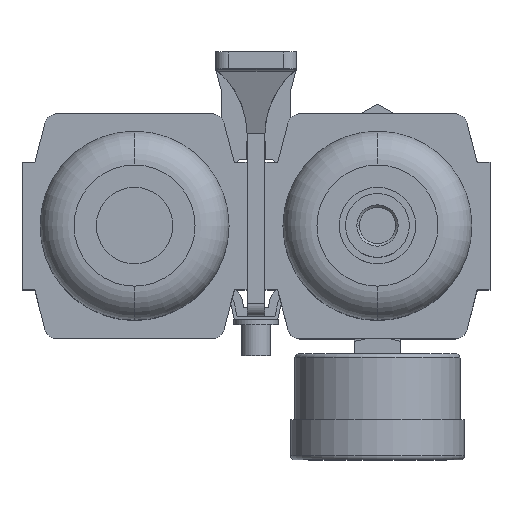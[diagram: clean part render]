
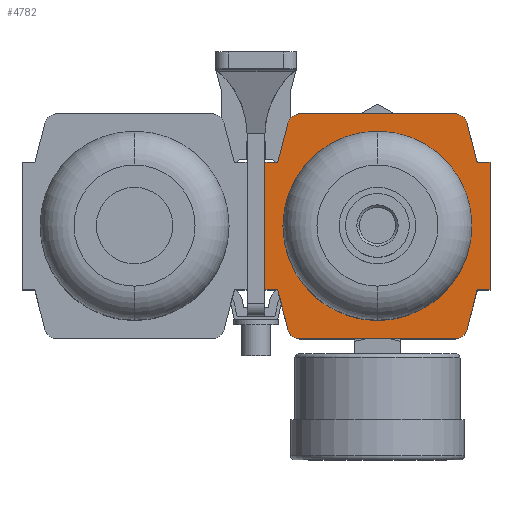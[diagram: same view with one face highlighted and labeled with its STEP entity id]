
A CAD part, top view. The second image highlights one B-rep face of the part: STEP entity #4782.
In plain terms, the highlighted planar face has unit normal (0, 0, 1).
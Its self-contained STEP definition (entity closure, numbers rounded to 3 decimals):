
#45 = ORIENTED_EDGE ( 'NONE', *, *, #16652, .F. ) ;
#190 = CARTESIAN_POINT ( 'NONE',  ( 18.182, -23.5, 0. ) ) ;
#239 = DIRECTION ( 'NONE',  ( 0., 0., -1. ) ) ;
#333 = CARTESIAN_POINT ( 'NONE',  ( 18.182, 23.5, 0. ) ) ;
#875 = EDGE_CURVE ( 'NONE', #8606, #6805, #8859, .T. ) ;
#898 = VERTEX_POINT ( 'NONE', #16255 ) ;
#1013 = DIRECTION ( 'NONE',  ( -1., 0., 0. ) ) ;
#1054 = CARTESIAN_POINT ( 'NONE',  ( -18.182, 23.5, 0. ) ) ;
#1056 = EDGE_CURVE ( 'NONE', #10961, #8107, #10927, .T. ) ;
#1057 = ORIENTED_EDGE ( 'NONE', *, *, #6254, .F. ) ;
#1186 = LINE ( 'NONE', #1564, #7576 ) ;
#1202 = ORIENTED_EDGE ( 'NONE', *, *, #10621, .F. ) ;
#1247 = DIRECTION ( 'NONE',  ( 0., 0., -1. ) ) ;
#1338 = CARTESIAN_POINT ( 'NONE',  ( -21.085, -24.257, 0. ) ) ;
#1384 = ORIENTED_EDGE ( 'NONE', *, *, #15377, .F. ) ;
#1398 = CARTESIAN_POINT ( 'NONE',  ( 23.5, 15., 0. ) ) ;
#1564 = CARTESIAN_POINT ( 'NONE',  ( 26.5, 15., 0. ) ) ;
#1762 = DIRECTION ( 'NONE',  ( 1., 0., 0. ) ) ;
#2052 = DIRECTION ( 'NONE',  ( -0.252, -0.968, 0. ) ) ;
#2127 = EDGE_LOOP ( 'NONE', ( #5407, #14890 ) ) ;
#2195 = ORIENTED_EDGE ( 'NONE', *, *, #2728, .F. ) ;
#2464 = CARTESIAN_POINT ( 'NONE',  ( 26.5, 15., 0. ) ) ;
#2501 = CARTESIAN_POINT ( 'NONE',  ( -18.182, 26.5, 0. ) ) ;
#2527 = CARTESIAN_POINT ( 'NONE',  ( -21.085, -24.257, 0. ) ) ;
#2534 = VERTEX_POINT ( 'NONE', #17659 ) ;
#2727 = AXIS2_PLACEMENT_3D ( 'NONE', #190, #11719, #15789 ) ;
#2728 = EDGE_CURVE ( 'NONE', #12732, #14899, #5703, .T. ) ;
#2836 = CIRCLE ( 'NONE', #12866, 15. ) ;
#2862 = CARTESIAN_POINT ( 'NONE',  ( -26.5, -15., 0. ) ) ;
#2947 = CARTESIAN_POINT ( 'NONE',  ( -23.5, -15., 0. ) ) ;
#3008 = CIRCLE ( 'NONE', #13307, 3. ) ;
#3044 = VERTEX_POINT ( 'NONE', #16115 ) ;
#3062 = LINE ( 'NONE', #5835, #14093 ) ;
#3274 = CARTESIAN_POINT ( 'NONE',  ( -23.5, -15., 0. ) ) ;
#3314 = EDGE_CURVE ( 'NONE', #9458, #898, #7712, .T. ) ;
#3516 = CARTESIAN_POINT ( 'NONE',  ( -15., 0., 0. ) ) ;
#3559 = VECTOR ( 'NONE', #11089, 1000. ) ;
#3807 = VECTOR ( 'NONE', #1013, 1000. ) ;
#3845 = CARTESIAN_POINT ( 'NONE',  ( -23.5, 15., 0. ) ) ;
#4029 = LINE ( 'NONE', #1338, #14572 ) ;
#4158 = CIRCLE ( 'NONE', #2727, 3. ) ;
#4227 = VERTEX_POINT ( 'NONE', #3274 ) ;
#4268 = DIRECTION ( 'NONE',  ( 1., 0., 0. ) ) ;
#4363 = DIRECTION ( 'NONE',  ( 1., 0., 0. ) ) ;
#4517 = VECTOR ( 'NONE', #8412, 1000. ) ;
#4550 = EDGE_LOOP ( 'NONE', ( #9562, #1202, #11861, #11210, #7215, #1057, #17409, #45, #6383, #2195, #1384, #6056, #16900, #9821, #7068, #8284 ) ) ;
#4782 = ADVANCED_FACE ( 'NONE', ( #9310, #15980 ), #6524, .F. ) ;
#5297 = VERTEX_POINT ( 'NONE', #11181 ) ;
#5321 = EDGE_CURVE ( 'NONE', #8107, #14471, #5431, .T. ) ;
#5326 = CARTESIAN_POINT ( 'NONE',  ( 18.182, -26.5, 0. ) ) ;
#5347 = CARTESIAN_POINT ( 'NONE',  ( -18.182, -23.5, 0. ) ) ;
#5350 = LINE ( 'NONE', #12365, #15434 ) ;
#5407 = ORIENTED_EDGE ( 'NONE', *, *, #3314, .T. ) ;
#5431 = LINE ( 'NONE', #15058, #3559 ) ;
#5562 = AXIS2_PLACEMENT_3D ( 'NONE', #1054, #7778, #14623 ) ;
#5686 = CARTESIAN_POINT ( 'NONE',  ( 23.5, 15., 0. ) ) ;
#5689 = CIRCLE ( 'NONE', #10830, 3. ) ;
#5703 = LINE ( 'NONE', #1398, #9867 ) ;
#5720 = EDGE_CURVE ( 'NONE', #14899, #3044, #1186, .T. ) ;
#5835 = CARTESIAN_POINT ( 'NONE',  ( 21.085, 24.257, 0. ) ) ;
#5946 = CARTESIAN_POINT ( 'NONE',  ( -23.5, 15., 0. ) ) ;
#6014 = DIRECTION ( 'NONE',  ( -1., 0., 0. ) ) ;
#6056 = ORIENTED_EDGE ( 'NONE', *, *, #8916, .F. ) ;
#6180 = DIRECTION ( 'NONE',  ( 1., 0., 0. ) ) ;
#6254 = EDGE_CURVE ( 'NONE', #6805, #17216, #4158, .T. ) ;
#6383 = ORIENTED_EDGE ( 'NONE', *, *, #5720, .F. ) ;
#6524 = PLANE ( 'NONE',  #5562 ) ;
#6802 = DIRECTION ( 'NONE',  ( -0.252, 0.968, 0. ) ) ;
#6805 = VERTEX_POINT ( 'NONE', #16031 ) ;
#6845 = CARTESIAN_POINT ( 'NONE',  ( -26.5, 15., 0. ) ) ;
#7068 = ORIENTED_EDGE ( 'NONE', *, *, #13993, .F. ) ;
#7215 = ORIENTED_EDGE ( 'NONE', *, *, #8008, .F. ) ;
#7469 = DIRECTION ( 'NONE',  ( 0.252, 0.968, 0. ) ) ;
#7576 = VECTOR ( 'NONE', #16302, 1000. ) ;
#7633 = EDGE_CURVE ( 'NONE', #10028, #13030, #5689, .T. ) ;
#7702 = CARTESIAN_POINT ( 'NONE',  ( -21.085, 24.257, 0. ) ) ;
#7712 = CIRCLE ( 'NONE', #14616, 15. ) ;
#7777 = VERTEX_POINT ( 'NONE', #11267 ) ;
#7778 = DIRECTION ( 'NONE',  ( 0., 0., -1. ) ) ;
#8008 = EDGE_CURVE ( 'NONE', #17216, #2534, #8098, .T. ) ;
#8098 = LINE ( 'NONE', #10440, #3807 ) ;
#8107 = VERTEX_POINT ( 'NONE', #6845 ) ;
#8284 = ORIENTED_EDGE ( 'NONE', *, *, #5321, .F. ) ;
#8412 = DIRECTION ( 'NONE',  ( -1., 0., 0. ) ) ;
#8416 = VECTOR ( 'NONE', #6014, 1000. ) ;
#8606 = VERTEX_POINT ( 'NONE', #14106 ) ;
#8785 = DIRECTION ( 'NONE',  ( 0., 0., -1. ) ) ;
#8859 = LINE ( 'NONE', #14351, #15279 ) ;
#8894 = LINE ( 'NONE', #5946, #15216 ) ;
#8916 = EDGE_CURVE ( 'NONE', #7777, #5297, #3008, .T. ) ;
#8967 = AXIS2_PLACEMENT_3D ( 'NONE', #5347, #239, #12454 ) ;
#9206 = CARTESIAN_POINT ( 'NONE',  ( -18.182, 23.5, 0. ) ) ;
#9310 = FACE_OUTER_BOUND ( 'NONE', #4550, .T. ) ;
#9458 = VERTEX_POINT ( 'NONE', #3516 ) ;
#9562 = ORIENTED_EDGE ( 'NONE', *, *, #1056, .F. ) ;
#9821 = ORIENTED_EDGE ( 'NONE', *, *, #7633, .F. ) ;
#9867 = VECTOR ( 'NONE', #4268, 1000. ) ;
#10023 = VECTOR ( 'NONE', #15258, 1000. ) ;
#10028 = VERTEX_POINT ( 'NONE', #7702 ) ;
#10172 = EDGE_CURVE ( 'NONE', #17566, #4227, #4029, .T. ) ;
#10440 = CARTESIAN_POINT ( 'NONE',  ( 18.182, -26.5, 0. ) ) ;
#10551 = LINE ( 'NONE', #12937, #8416 ) ;
#10558 = EDGE_CURVE ( 'NONE', #13030, #7777, #5350, .T. ) ;
#10621 = EDGE_CURVE ( 'NONE', #4227, #10961, #16249, .T. ) ;
#10830 = AXIS2_PLACEMENT_3D ( 'NONE', #9206, #14700, #1762 ) ;
#10927 = LINE ( 'NONE', #2862, #10023 ) ;
#10961 = VERTEX_POINT ( 'NONE', #15300 ) ;
#11006 = DIRECTION ( 'NONE',  ( 0., 0., -1. ) ) ;
#11089 = DIRECTION ( 'NONE',  ( 1., 0., 0. ) ) ;
#11181 = CARTESIAN_POINT ( 'NONE',  ( 21.085, 24.257, 0. ) ) ;
#11210 = ORIENTED_EDGE ( 'NONE', *, *, #16757, .F. ) ;
#11267 = CARTESIAN_POINT ( 'NONE',  ( 18.182, 26.5, 0. ) ) ;
#11278 = EDGE_CURVE ( 'NONE', #898, #9458, #2836, .T. ) ;
#11719 = DIRECTION ( 'NONE',  ( 0., 0., -1. ) ) ;
#11861 = ORIENTED_EDGE ( 'NONE', *, *, #10172, .F. ) ;
#12020 = CARTESIAN_POINT ( 'NONE',  ( 0., 0., 0. ) ) ;
#12267 = DIRECTION ( 'NONE',  ( 1., 0., 0. ) ) ;
#12365 = CARTESIAN_POINT ( 'NONE',  ( -18.182, 26.5, 0. ) ) ;
#12454 = DIRECTION ( 'NONE',  ( 1., 0., 0. ) ) ;
#12732 = VERTEX_POINT ( 'NONE', #5686 ) ;
#12866 = AXIS2_PLACEMENT_3D ( 'NONE', #12020, #1247, #14718 ) ;
#12937 = CARTESIAN_POINT ( 'NONE',  ( 26.5, -15., 0. ) ) ;
#13030 = VERTEX_POINT ( 'NONE', #2501 ) ;
#13100 = CARTESIAN_POINT ( 'NONE',  ( 0., 0., 0. ) ) ;
#13307 = AXIS2_PLACEMENT_3D ( 'NONE', #333, #11006, #4363 ) ;
#13993 = EDGE_CURVE ( 'NONE', #14471, #10028, #8894, .T. ) ;
#14093 = VECTOR ( 'NONE', #16901, 1000. ) ;
#14106 = CARTESIAN_POINT ( 'NONE',  ( 23.5, -15., 0. ) ) ;
#14351 = CARTESIAN_POINT ( 'NONE',  ( 23.5, -15., 0. ) ) ;
#14471 = VERTEX_POINT ( 'NONE', #3845 ) ;
#14572 = VECTOR ( 'NONE', #6802, 1000. ) ;
#14616 = AXIS2_PLACEMENT_3D ( 'NONE', #13100, #8785, #6180 ) ;
#14623 = DIRECTION ( 'NONE',  ( 1., 0., 0. ) ) ;
#14700 = DIRECTION ( 'NONE',  ( 0., 0., -1. ) ) ;
#14718 = DIRECTION ( 'NONE',  ( 1., 0., 0. ) ) ;
#14890 = ORIENTED_EDGE ( 'NONE', *, *, #11278, .T. ) ;
#14899 = VERTEX_POINT ( 'NONE', #2464 ) ;
#15058 = CARTESIAN_POINT ( 'NONE',  ( -26.5, 15., 0. ) ) ;
#15216 = VECTOR ( 'NONE', #7469, 1000. ) ;
#15258 = DIRECTION ( 'NONE',  ( 0., 1., 0. ) ) ;
#15279 = VECTOR ( 'NONE', #2052, 1000. ) ;
#15300 = CARTESIAN_POINT ( 'NONE',  ( -26.5, -15., 0. ) ) ;
#15377 = EDGE_CURVE ( 'NONE', #5297, #12732, #3062, .T. ) ;
#15434 = VECTOR ( 'NONE', #12267, 1000. ) ;
#15789 = DIRECTION ( 'NONE',  ( 1., 0., 0. ) ) ;
#15980 = FACE_BOUND ( 'NONE', #2127, .T. ) ;
#16031 = CARTESIAN_POINT ( 'NONE',  ( 21.085, -24.257, 0. ) ) ;
#16115 = CARTESIAN_POINT ( 'NONE',  ( 26.5, -15., 0. ) ) ;
#16249 = LINE ( 'NONE', #2947, #4517 ) ;
#16255 = CARTESIAN_POINT ( 'NONE',  ( 15., 0., 0. ) ) ;
#16302 = DIRECTION ( 'NONE',  ( 0., -1., 0. ) ) ;
#16652 = EDGE_CURVE ( 'NONE', #3044, #8606, #10551, .T. ) ;
#16757 = EDGE_CURVE ( 'NONE', #2534, #17566, #16762, .T. ) ;
#16762 = CIRCLE ( 'NONE', #8967, 3. ) ;
#16900 = ORIENTED_EDGE ( 'NONE', *, *, #10558, .F. ) ;
#16901 = DIRECTION ( 'NONE',  ( 0.252, -0.968, 0. ) ) ;
#17216 = VERTEX_POINT ( 'NONE', #5326 ) ;
#17409 = ORIENTED_EDGE ( 'NONE', *, *, #875, .F. ) ;
#17566 = VERTEX_POINT ( 'NONE', #2527 ) ;
#17659 = CARTESIAN_POINT ( 'NONE',  ( -18.182, -26.5, 0. ) ) ;
